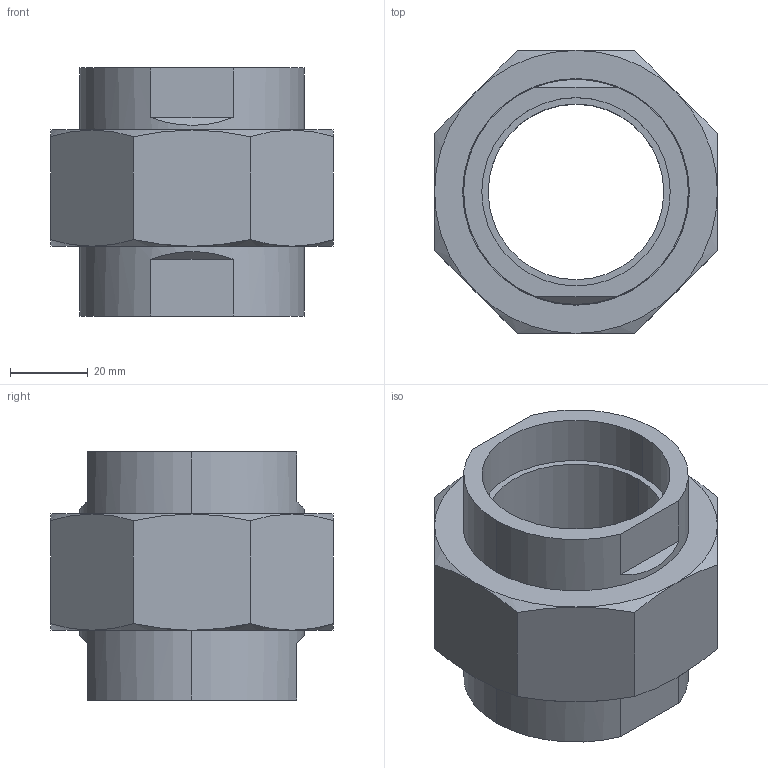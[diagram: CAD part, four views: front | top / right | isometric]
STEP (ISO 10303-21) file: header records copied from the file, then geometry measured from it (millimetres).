
FILE_DESCRIPTION (( 'STEP AP203' ), '1' );
FILE_NAME ('12-0131-13_outokumpu.step', '2015-08-12T08:10:20', ( '' ), ( '' ), 'SwSTEP 2.0', 'SolidWorks 2008', '' );
FILE_SCHEMA (( 'CONFIG_CONTROL_DESIGN' ));
Length unit declared in the file: millimetre
Products named in the file (4): nipple-13-444-210_outokumpu_nipple-13-444-210_outokumpu; 12-0131-13_outokumpu; case-13-555-390_outokumpu_case-13-555-390_outokumpu; nut-13-222-055_outokumpu_nut-13-222-055_outokumpu
Assembly tree (3 placements, depth 2):
  12-0131-13_outokumpu
    case-13-555-390_outokumpu_case-13-555-390_outokumpu
    nut-13-222-055_outokumpu_nut-13-222-055_outokumpu
    nipple-13-444-210_outokumpu_nipple-13-444-210_outokumpu
Bounding box: 73 x 73 x 64 mm (x, y, z)
Volume: 104099.1 mm3; surface area: 44912.3 mm2
Topology: 3 solids, 3 shells, 72 faces, 158 edges, 98 vertices
Faces by surface type: plane 28, cone 24, cylinder 20
Entity records: 2546 total; most frequent: CARTESIAN_POINT 554, DIRECTION 348, ORIENTED_EDGE 316, EDGE_CURVE 158, AXIS2_PLACEMENT_3D 148, VERTEX_POINT 98, EDGE_LOOP 84, FACE_OUTER_BOUND 72
